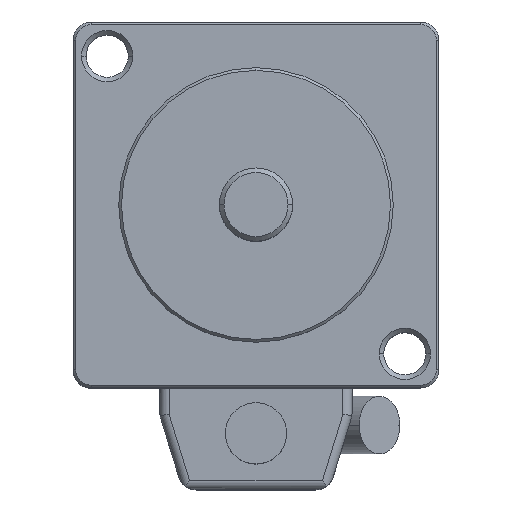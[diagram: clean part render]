
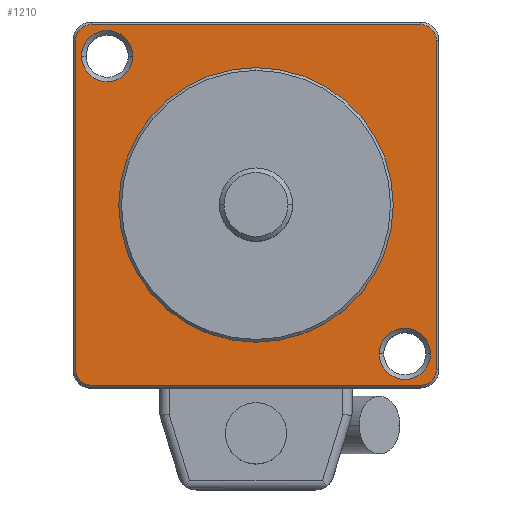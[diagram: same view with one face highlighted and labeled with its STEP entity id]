
A CAD part, top view. The second image highlights one B-rep face of the part: STEP entity #1210.
In plain terms, the highlighted planar face has unit normal (0, 0, 1).
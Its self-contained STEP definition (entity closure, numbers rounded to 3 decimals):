
#10=CARTESIAN_POINT('',(-19.7,-19.7,-20.));
#20=DIRECTION('',(0.,0.,1.));
#30=DIRECTION('',(1.,0.,0.));
#40=AXIS2_PLACEMENT_3D('',#10,#20,#30);
#50=PLANE('',#40);
#60=CARTESIAN_POINT('',(16.263,-16.263,-20.));
#70=DIRECTION('',(0.,0.,1.));
#80=DIRECTION('',(1.,0.,0.));
#90=AXIS2_PLACEMENT_3D('',#60,#70,#80);
#100=CIRCLE('',#90,2.8);
#110=CARTESIAN_POINT('',(13.463,-16.263,-20.));
#120=VERTEX_POINT('',#110);
#130=CARTESIAN_POINT('',(19.063,-16.263,-20.));
#140=VERTEX_POINT('',#130);
#150=EDGE_CURVE('',#120,#140,#100,.T.);
#160=ORIENTED_EDGE('',*,*,#150,.F.);
#170=EDGE_CURVE('',#140,#120,#100,.T.);
#180=ORIENTED_EDGE('',*,*,#170,.F.);
#190=EDGE_LOOP('',(#180,#160));
#200=FACE_BOUND('',#190,.T.);
#210=CARTESIAN_POINT('',(0.,0.,-20.)
);
#220=DIRECTION('',(0.,0.,1.));
#230=DIRECTION('',(1.,0.,0.));
#240=AXIS2_PLACEMENT_3D('',#210,#220,#230);
#250=CIRCLE('',#240,15.);
#260=CARTESIAN_POINT('',(-15.,0.,-20.));
#270=VERTEX_POINT('',#260);
#280=CARTESIAN_POINT('',(15.,0.,-20.));
#290=VERTEX_POINT('',#280);
#300=EDGE_CURVE('',#270,#290,#250,.T.);
#310=ORIENTED_EDGE('',*,*,#300,.F.);
#320=EDGE_CURVE('',#290,#270,#250,.T.);
#330=ORIENTED_EDGE('',*,*,#320,.F.);
#340=EDGE_LOOP('',(#330,#310));
#350=FACE_BOUND('',#340,.T.);
#360=CARTESIAN_POINT('',(-16.263,16.263,-20.));
#370=DIRECTION('',(0.,0.,1.));
#380=DIRECTION('',(1.,0.,0.));
#390=AXIS2_PLACEMENT_3D('',#360,#370,#380);
#400=CIRCLE('',#390,2.8);
#410=CARTESIAN_POINT('',(-19.063,16.263,-20.));
#420=VERTEX_POINT('',#410);
#430=CARTESIAN_POINT('',(-13.463,16.263,-20.));
#440=VERTEX_POINT('',#430);
#450=EDGE_CURVE('',#420,#440,#400,.T.);
#460=ORIENTED_EDGE('',*,*,#450,.F.);
#470=EDGE_CURVE('',#440,#420,#400,.T.);
#480=ORIENTED_EDGE('',*,*,#470,.F.);
#490=EDGE_LOOP('',(#480,#460));
#500=FACE_BOUND('',#490,.T.);
#510=CARTESIAN_POINT('',(-18.,18.,-20.));
#520=DIRECTION('',(0.,0.,-1.));
#530=DIRECTION('',(-1.,0.,0.));
#540=AXIS2_PLACEMENT_3D('',#510,#520,#530);
#550=CIRCLE('',#540,1.7);
#560=CARTESIAN_POINT('',(-19.7,18.,-20.));
#570=VERTEX_POINT('',#560);
#580=CARTESIAN_POINT('',(-18.,19.7,-20.));
#590=VERTEX_POINT('',#580);
#600=EDGE_CURVE('',#570,#590,#550,.T.);
#610=ORIENTED_EDGE('',*,*,#600,.F.);
#620=CARTESIAN_POINT('',(0.,19.7,-20.));
#630=DIRECTION('',(1.,0.,0.));
#640=VECTOR('',#630,1.);
#650=LINE('',#620,#640);
#660=CARTESIAN_POINT('',(18.,19.7,-20.));
#670=VERTEX_POINT('',#660);
#680=EDGE_CURVE('',#590,#670,#650,.T.);
#690=ORIENTED_EDGE('',*,*,#680,.F.);
#700=CARTESIAN_POINT('',(18.,18.,-20.));
#710=DIRECTION('',(0.,0.,-1.));
#720=DIRECTION('',(-1.,0.,0.));
#730=AXIS2_PLACEMENT_3D('',#700,#710,#720);
#740=CIRCLE('',#730,1.7);
#750=CARTESIAN_POINT('',(19.7,18.,-20.));
#760=VERTEX_POINT('',#750);
#770=EDGE_CURVE('',#670,#760,#740,.T.);
#780=ORIENTED_EDGE('',*,*,#770,.F.);
#790=CARTESIAN_POINT('',(19.7,0.,-20.));
#800=DIRECTION('',(0.,-1.,0.));
#810=VECTOR('',#800,1.);
#820=LINE('',#790,#810);
#830=CARTESIAN_POINT('',(19.7,-18.,-20.));
#840=VERTEX_POINT('',#830);
#850=EDGE_CURVE('',#760,#840,#820,.T.);
#860=ORIENTED_EDGE('',*,*,#850,.F.);
#870=CARTESIAN_POINT('',(18.,-18.,-20.));
#880=DIRECTION('',(0.,0.,-1.));
#890=DIRECTION('',(-1.,0.,0.));
#900=AXIS2_PLACEMENT_3D('',#870,#880,#890);
#910=CIRCLE('',#900,1.7);
#920=CARTESIAN_POINT('',(18.,-19.7,-20.));
#930=VERTEX_POINT('',#920);
#940=EDGE_CURVE('',#840,#930,#910,.T.);
#950=ORIENTED_EDGE('',*,*,#940,.F.);
#960=CARTESIAN_POINT('',(0.,-19.7,-20.));
#970=DIRECTION('',(-1.,0.,0.));
#980=VECTOR('',#970,1.);
#990=LINE('',#960,#980);
#1000=CARTESIAN_POINT('',(-18.,-19.7,-20.));
#1010=VERTEX_POINT('',#1000);
#1020=EDGE_CURVE('',#930,#1010,#990,.T.);
#1030=ORIENTED_EDGE('',*,*,#1020,.F.);
#1040=CARTESIAN_POINT('',(-18.,-18.,-20.));
#1050=DIRECTION('',(0.,0.,-1.));
#1060=DIRECTION('',(-1.,0.,0.));
#1070=AXIS2_PLACEMENT_3D('',#1040,#1050,#1060);
#1080=CIRCLE('',#1070,1.7);
#1090=CARTESIAN_POINT('',(-19.7,-18.,-20.));
#1100=VERTEX_POINT('',#1090);
#1110=EDGE_CURVE('',#1010,#1100,#1080,.T.);
#1120=ORIENTED_EDGE('',*,*,#1110,.F.);
#1130=CARTESIAN_POINT('',(-19.7,0.,-20.));
#1140=DIRECTION('',(0.,1.,0.));
#1150=VECTOR('',#1140,1.);
#1160=LINE('',#1130,#1150);
#1170=EDGE_CURVE('',#1100,#570,#1160,.T.);
#1180=ORIENTED_EDGE('',*,*,#1170,.F.);
#1190=EDGE_LOOP('',(#1180,#1120,#1030,#950,#860,#780,#690,#610));
#1200=FACE_OUTER_BOUND('',#1190,.T.);
#1210=ADVANCED_FACE('',(#200,#350,#500,#1200),#50,.T.);
